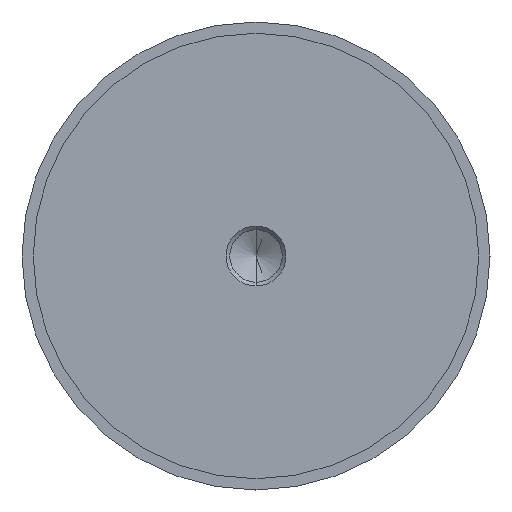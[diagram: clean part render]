
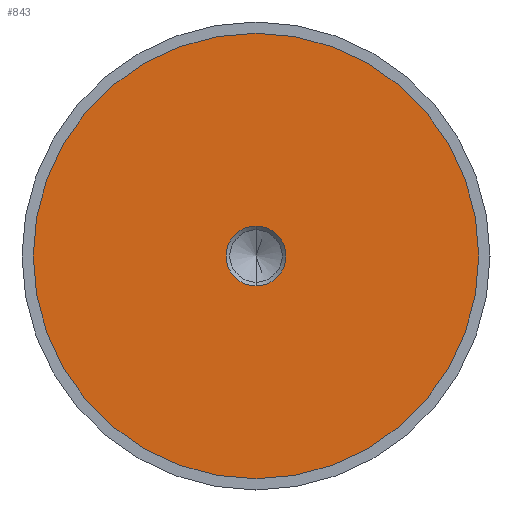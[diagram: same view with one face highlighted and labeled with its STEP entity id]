
A CAD part, left-side view. The second image highlights one B-rep face of the part: STEP entity #843.
In plain terms, the highlighted planar face has unit normal (-1, 0, 0).
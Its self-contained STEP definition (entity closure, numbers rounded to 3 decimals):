
#5 = EDGE_CURVE ( 'NONE', #663, #274, #171, .T. ) ;
#12 = DIRECTION ( 'NONE',  ( 0., 0., 1. ) ) ;
#19 = CARTESIAN_POINT ( 'NONE',  ( -37.49, 0., 7.99 ) ) ;
#67 = EDGE_CURVE ( 'NONE', #413, #435, #457, .T. ) ;
#72 = CARTESIAN_POINT ( 'NONE',  ( -37.49, 0., 0. ) ) ;
#80 = CARTESIAN_POINT ( 'NONE',  ( -37.49, 0., 0. ) ) ;
#82 = CARTESIAN_POINT ( 'NONE',  ( -37.49, 0., -7.99 ) ) ;
#90 = PLANE ( 'NONE',  #779 ) ;
#93 = DIRECTION ( 'NONE',  ( -1., 0., 0. ) ) ;
#171 = CIRCLE ( 'NONE', #470, 59.5 ) ;
#258 = FACE_BOUND ( 'NONE', #675, .T. ) ;
#274 = VERTEX_POINT ( 'NONE', #537 ) ;
#278 = DIRECTION ( 'NONE',  ( 1., 0., 0. ) ) ;
#296 = DIRECTION ( 'NONE',  ( 1., 0., 0. ) ) ;
#328 = AXIS2_PLACEMENT_3D ( 'NONE', #785, #657, #719 ) ;
#350 = CARTESIAN_POINT ( 'NONE',  ( -37.49, 0., 59.5 ) ) ;
#368 = DIRECTION ( 'NONE',  ( 0., 0., 1. ) ) ;
#369 = EDGE_CURVE ( 'NONE', #435, #413, #858, .T. ) ;
#413 = VERTEX_POINT ( 'NONE', #82 ) ;
#426 = ORIENTED_EDGE ( 'NONE', *, *, #855, .T. ) ;
#435 = VERTEX_POINT ( 'NONE', #19 ) ;
#457 = CIRCLE ( 'NONE', #328, 7.99 ) ;
#470 = AXIS2_PLACEMENT_3D ( 'NONE', #80, #570, #12 ) ;
#508 = EDGE_LOOP ( 'NONE', ( #747, #426 ) ) ;
#520 = AXIS2_PLACEMENT_3D ( 'NONE', #871, #93, #368 ) ;
#532 = FACE_OUTER_BOUND ( 'NONE', #508, .T. ) ;
#537 = CARTESIAN_POINT ( 'NONE',  ( -37.49, 0., -59.5 ) ) ;
#570 = DIRECTION ( 'NONE',  ( -1., 0., 0. ) ) ;
#616 = DIRECTION ( 'NONE',  ( 0., 0., -1. ) ) ;
#657 = DIRECTION ( 'NONE',  ( 1., 0., 0. ) ) ;
#659 = DIRECTION ( 'NONE',  ( 0., 0., -1. ) ) ;
#663 = VERTEX_POINT ( 'NONE', #350 ) ;
#675 = EDGE_LOOP ( 'NONE', ( #730, #723 ) ) ;
#719 = DIRECTION ( 'NONE',  ( 0., 0., -1. ) ) ;
#723 = ORIENTED_EDGE ( 'NONE', *, *, #67, .T. ) ;
#730 = ORIENTED_EDGE ( 'NONE', *, *, #369, .T. ) ;
#747 = ORIENTED_EDGE ( 'NONE', *, *, #5, .T. ) ;
#748 = CIRCLE ( 'NONE', #520, 59.5 ) ;
#779 = AXIS2_PLACEMENT_3D ( 'NONE', #806, #296, #659 ) ;
#785 = CARTESIAN_POINT ( 'NONE',  ( -37.49, 0., 0. ) ) ;
#806 = CARTESIAN_POINT ( 'NONE',  ( -37.49, 59.5, 0. ) ) ;
#817 = AXIS2_PLACEMENT_3D ( 'NONE', #72, #278, #616 ) ;
#843 = ADVANCED_FACE ( 'NONE', ( #258, #532 ), #90, .F. ) ;
#855 = EDGE_CURVE ( 'NONE', #274, #663, #748, .T. ) ;
#858 = CIRCLE ( 'NONE', #817, 7.99 ) ;
#871 = CARTESIAN_POINT ( 'NONE',  ( -37.49, 0., 0. ) ) ;
